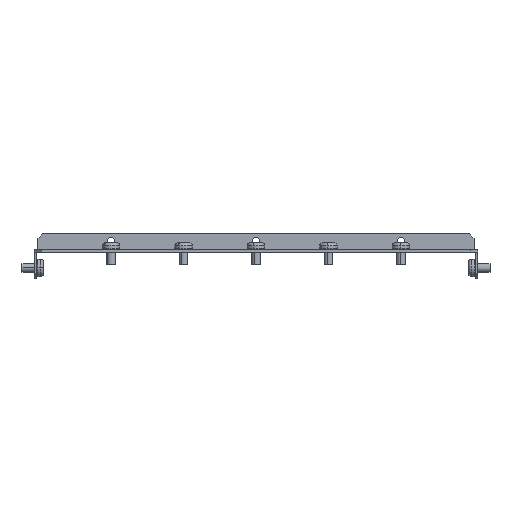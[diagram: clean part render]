
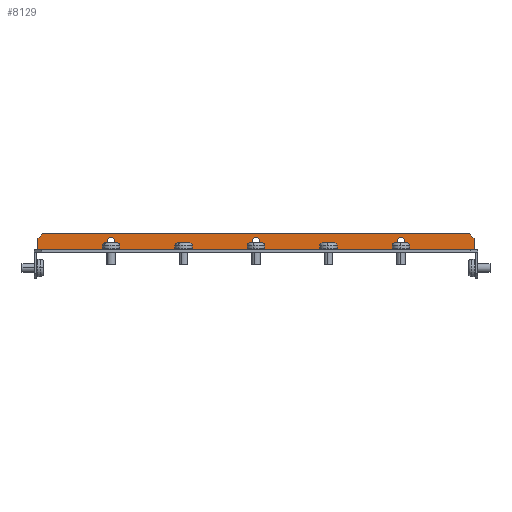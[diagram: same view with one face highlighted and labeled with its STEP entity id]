
A CAD part, left-side view. The second image highlights one B-rep face of the part: STEP entity #8129.
In plain terms, the highlighted planar face has unit normal (-1, 0, 0).
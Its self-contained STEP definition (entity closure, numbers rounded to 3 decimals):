
#23 = CARTESIAN_POINT ( 'NONE',  ( 176.5, 0., 6. ) ) ;
#66 = CARTESIAN_POINT ( 'NONE',  ( 176.5, 150.5, 1. ) ) ;
#94 = EDGE_CURVE ( 'NONE', #8247, #7491, #8080, .T. ) ;
#160 = CARTESIAN_POINT ( 'NONE',  ( 176.5, -147.5, 11. ) ) ;
#210 = CARTESIAN_POINT ( 'NONE',  ( 176.5, 100., 3.4 ) ) ;
#433 = CARTESIAN_POINT ( 'NONE',  ( 176.5, -79.25, 79.25 ) ) ;
#547 = ORIENTED_EDGE ( 'NONE', *, *, #3261, .T. ) ;
#552 = CARTESIAN_POINT ( 'NONE',  ( 176.5, 150.5, 8. ) ) ;
#644 = DIRECTION ( 'NONE',  ( -1., 0., 0. ) ) ;
#667 = DIRECTION ( 'NONE',  ( 0., -1., 0. ) ) ;
#751 = LINE ( 'NONE', #5034, #7178 ) ;
#816 = VERTEX_POINT ( 'NONE', #10655 ) ;
#928 = CARTESIAN_POINT ( 'NONE',  ( 176.5, 100., 6. ) ) ;
#1403 = EDGE_LOOP ( 'NONE', ( #7163, #1649, #10433, #7453, #9198, #4053, #10631, #2267 ) ) ;
#1484 = CIRCLE ( 'NONE', #9960, 2.6 ) ;
#1494 = VECTOR ( 'NONE', #7549, 1000. ) ;
#1636 = DIRECTION ( 'NONE',  ( 0., 1., 0. ) ) ;
#1649 = ORIENTED_EDGE ( 'NONE', *, *, #6288, .T. ) ;
#1845 = AXIS2_PLACEMENT_3D ( 'NONE', #10629, #644, #1636 ) ;
#1859 = CARTESIAN_POINT ( 'NONE',  ( 176.5, -150.5, 0. ) ) ;
#1944 = VERTEX_POINT ( 'NONE', #2291 ) ;
#2095 = CARTESIAN_POINT ( 'NONE',  ( 176.5, 100., 6. ) ) ;
#2152 = VERTEX_POINT ( 'NONE', #160 ) ;
#2267 = ORIENTED_EDGE ( 'NONE', *, *, #7293, .T. ) ;
#2291 = CARTESIAN_POINT ( 'NONE',  ( 176.5, -100., 8.6 ) ) ;
#2369 = CARTESIAN_POINT ( 'NONE',  ( 176.5, -150.5, 11. ) ) ;
#2380 = CARTESIAN_POINT ( 'NONE',  ( 176.5, -100., 3.4 ) ) ;
#2527 = ORIENTED_EDGE ( 'NONE', *, *, #3178, .T. ) ;
#2657 = CIRCLE ( 'NONE', #3583, 2.6 ) ;
#2729 = CIRCLE ( 'NONE', #8585, 2.6 ) ;
#2852 = DIRECTION ( 'NONE',  ( 1., 0., 0. ) ) ;
#2891 = CIRCLE ( 'NONE', #9484, 2.6 ) ;
#2998 = DIRECTION ( 'NONE',  ( 1., 0., 0. ) ) ;
#3178 = EDGE_CURVE ( 'NONE', #3985, #9677, #3633, .T. ) ;
#3261 = EDGE_CURVE ( 'NONE', #6265, #8845, #2891, .T. ) ;
#3338 = CARTESIAN_POINT ( 'NONE',  ( 176.5, -100., 6. ) ) ;
#3387 = DIRECTION ( 'NONE',  ( 0., 0., -1. ) ) ;
#3474 = DIRECTION ( 'NONE',  ( 0., 0., 1. ) ) ;
#3527 = DIRECTION ( 'NONE',  ( 0., 0., 1. ) ) ;
#3583 = AXIS2_PLACEMENT_3D ( 'NONE', #928, #2852, #7219 ) ;
#3633 = CIRCLE ( 'NONE', #4584, 2.6 ) ;
#3812 = EDGE_CURVE ( 'NONE', #4916, #2152, #5951, .T. ) ;
#3985 = VERTEX_POINT ( 'NONE', #4409 ) ;
#3992 = DIRECTION ( 'NONE',  ( 0., 0., 1. ) ) ;
#4017 = EDGE_CURVE ( 'NONE', #1944, #9176, #8363, .T. ) ;
#4053 = ORIENTED_EDGE ( 'NONE', *, *, #5639, .F. ) ;
#4281 = ORIENTED_EDGE ( 'NONE', *, *, #4017, .T. ) ;
#4328 = CARTESIAN_POINT ( 'NONE',  ( 176.5, 150.5, 1. ) ) ;
#4347 = EDGE_CURVE ( 'NONE', #8247, #7487, #8005, .T. ) ;
#4409 = CARTESIAN_POINT ( 'NONE',  ( 176.5, 0., 8.6 ) ) ;
#4584 = AXIS2_PLACEMENT_3D ( 'NONE', #23, #10775, #3474 ) ;
#4740 = CARTESIAN_POINT ( 'NONE',  ( 176.5, 0., 3.4 ) ) ;
#4916 = VERTEX_POINT ( 'NONE', #9497 ) ;
#5034 = CARTESIAN_POINT ( 'NONE',  ( 176.5, -150.5, 0. ) ) ;
#5093 = PLANE ( 'NONE',  #1845 ) ;
#5136 = CARTESIAN_POINT ( 'NONE',  ( 176.5, -150.5, 8. ) ) ;
#5232 = EDGE_LOOP ( 'NONE', ( #2527, #10881 ) ) ;
#5260 = DIRECTION ( 'NONE',  ( 0., 1., 0. ) ) ;
#5274 = DIRECTION ( 'NONE',  ( 0., 0., -1. ) ) ;
#5287 = DIRECTION ( 'NONE',  ( 1., 0., 0. ) ) ;
#5334 = AXIS2_PLACEMENT_3D ( 'NONE', #9781, #5287, #3527 ) ;
#5568 = EDGE_CURVE ( 'NONE', #7905, #816, #751, .T. ) ;
#5639 = EDGE_CURVE ( 'NONE', #816, #7713, #9861, .T. ) ;
#5697 = EDGE_CURVE ( 'NONE', #8845, #6265, #2657, .T. ) ;
#5706 = LINE ( 'NONE', #433, #1494 ) ;
#5853 = DIRECTION ( 'NONE',  ( 1., 0., 0. ) ) ;
#5951 = LINE ( 'NONE', #2369, #8662 ) ;
#6109 = LINE ( 'NONE', #7005, #6883 ) ;
#6265 = VERTEX_POINT ( 'NONE', #210 ) ;
#6288 = EDGE_CURVE ( 'NONE', #4916, #7491, #6109, .T. ) ;
#6686 = ORIENTED_EDGE ( 'NONE', *, *, #5697, .T. ) ;
#6883 = VECTOR ( 'NONE', #8002, 1000. ) ;
#7005 = CARTESIAN_POINT ( 'NONE',  ( 176.5, 79.25, 79.25 ) ) ;
#7048 = FACE_BOUND ( 'NONE', #9091, .T. ) ;
#7163 = ORIENTED_EDGE ( 'NONE', *, *, #3812, .F. ) ;
#7178 = VECTOR ( 'NONE', #3387, 1000. ) ;
#7189 = VECTOR ( 'NONE', #7310, 1000. ) ;
#7219 = DIRECTION ( 'NONE',  ( 0., 0., 1. ) ) ;
#7293 = EDGE_CURVE ( 'NONE', #7905, #2152, #5706, .T. ) ;
#7310 = DIRECTION ( 'NONE',  ( 0., 0., 1. ) ) ;
#7453 = ORIENTED_EDGE ( 'NONE', *, *, #4347, .T. ) ;
#7487 = VERTEX_POINT ( 'NONE', #10477 ) ;
#7491 = VERTEX_POINT ( 'NONE', #552 ) ;
#7549 = DIRECTION ( 'NONE',  ( 0., 0.707, 0.707 ) ) ;
#7713 = VERTEX_POINT ( 'NONE', #8179 ) ;
#7882 = FACE_BOUND ( 'NONE', #5232, .T. ) ;
#7905 = VERTEX_POINT ( 'NONE', #5136 ) ;
#7936 = LINE ( 'NONE', #11505, #9559 ) ;
#8002 = DIRECTION ( 'NONE',  ( 0., 0.707, -0.707 ) ) ;
#8005 = LINE ( 'NONE', #66, #11139 ) ;
#8080 = LINE ( 'NONE', #10771, #7189 ) ;
#8129 = ADVANCED_FACE ( 'NONE', ( #11389, #7882, #7048, #8770 ), #5093, .T. ) ;
#8158 = DIRECTION ( 'NONE',  ( 0., 0., -1. ) ) ;
#8179 = CARTESIAN_POINT ( 'NONE',  ( 176.5, -150.5, 0. ) ) ;
#8196 = EDGE_CURVE ( 'NONE', #9176, #1944, #1484, .T. ) ;
#8247 = VERTEX_POINT ( 'NONE', #4328 ) ;
#8248 = EDGE_CURVE ( 'NONE', #7713, #7487, #7936, .T. ) ;
#8363 = CIRCLE ( 'NONE', #5334, 2.6 ) ;
#8517 = ORIENTED_EDGE ( 'NONE', *, *, #8196, .T. ) ;
#8585 = AXIS2_PLACEMENT_3D ( 'NONE', #9251, #2998, #3992 ) ;
#8662 = VECTOR ( 'NONE', #667, 1000. ) ;
#8770 = FACE_OUTER_BOUND ( 'NONE', #1403, .T. ) ;
#8845 = VERTEX_POINT ( 'NONE', #9323 ) ;
#8890 = VECTOR ( 'NONE', #8158, 1000. ) ;
#9091 = EDGE_LOOP ( 'NONE', ( #6686, #547 ) ) ;
#9141 = EDGE_LOOP ( 'NONE', ( #4281, #8517 ) ) ;
#9176 = VERTEX_POINT ( 'NONE', #2380 ) ;
#9198 = ORIENTED_EDGE ( 'NONE', *, *, #8248, .F. ) ;
#9251 = CARTESIAN_POINT ( 'NONE',  ( 176.5, 0., 6. ) ) ;
#9323 = CARTESIAN_POINT ( 'NONE',  ( 176.5, 100., 8.6 ) ) ;
#9484 = AXIS2_PLACEMENT_3D ( 'NONE', #2095, #5853, #10208 ) ;
#9497 = CARTESIAN_POINT ( 'NONE',  ( 176.5, 147.5, 11. ) ) ;
#9559 = VECTOR ( 'NONE', #5260, 1000. ) ;
#9643 = DIRECTION ( 'NONE',  ( 0., 0., 1. ) ) ;
#9677 = VERTEX_POINT ( 'NONE', #4740 ) ;
#9756 = DIRECTION ( 'NONE',  ( 1., 0., 0. ) ) ;
#9781 = CARTESIAN_POINT ( 'NONE',  ( 176.5, -100., 6. ) ) ;
#9861 = LINE ( 'NONE', #1859, #8890 ) ;
#9960 = AXIS2_PLACEMENT_3D ( 'NONE', #3338, #9756, #9643 ) ;
#10208 = DIRECTION ( 'NONE',  ( 0., 0., 1. ) ) ;
#10433 = ORIENTED_EDGE ( 'NONE', *, *, #94, .F. ) ;
#10477 = CARTESIAN_POINT ( 'NONE',  ( 176.5, 150.5, 0. ) ) ;
#10629 = CARTESIAN_POINT ( 'NONE',  ( 176.5, 0., 0. ) ) ;
#10631 = ORIENTED_EDGE ( 'NONE', *, *, #5568, .F. ) ;
#10655 = CARTESIAN_POINT ( 'NONE',  ( 176.5, -150.5, 1. ) ) ;
#10771 = CARTESIAN_POINT ( 'NONE',  ( 176.5, 150.5, 11. ) ) ;
#10775 = DIRECTION ( 'NONE',  ( 1., 0., 0. ) ) ;
#10881 = ORIENTED_EDGE ( 'NONE', *, *, #10968, .T. ) ;
#10968 = EDGE_CURVE ( 'NONE', #9677, #3985, #2729, .T. ) ;
#11139 = VECTOR ( 'NONE', #5274, 1000. ) ;
#11389 = FACE_BOUND ( 'NONE', #9141, .T. ) ;
#11505 = CARTESIAN_POINT ( 'NONE',  ( 176.5, 0., 0. ) ) ;
